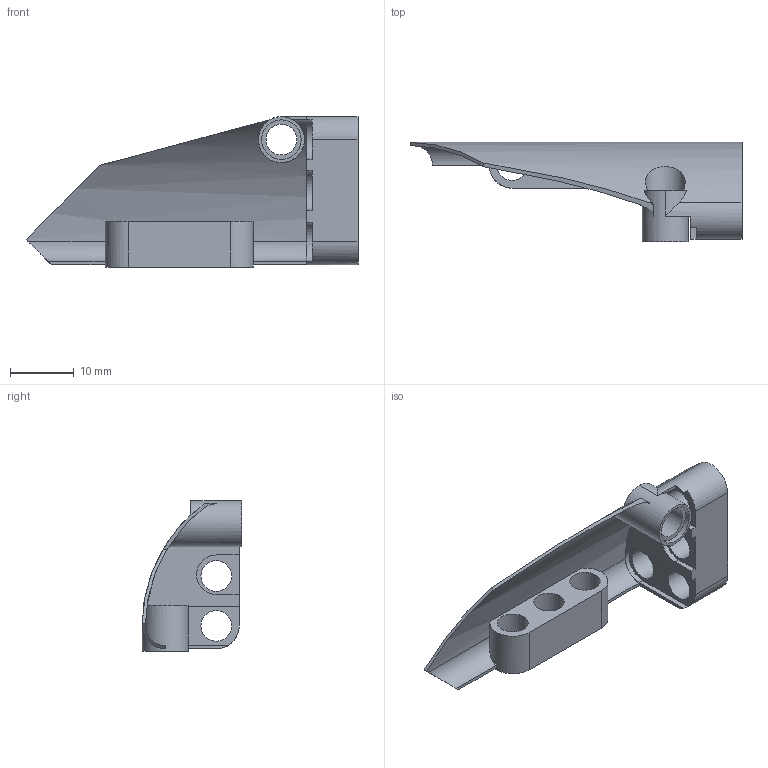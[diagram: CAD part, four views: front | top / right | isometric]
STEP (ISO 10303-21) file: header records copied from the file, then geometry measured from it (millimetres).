
FILE_DESCRIPTION(/* description */ ('Unknown'),/* implementation_level */ '2;1');
FILE_NAME(/* name */ 'Ye_6005195_AVV',/* time_stamp */ '2025-07-22T00:10:36+02:00',/* author */ ('Unknown'),/* organization */ ('Unknown'),/* preprocessor_version */ 'ST-DEVELOPER v19.4',/* originating_system */ 'Solid Edge',/* authorisation */ 'Unknown');
FILE_SCHEMA (('AUTOMOTIVE_DESIGN {1 0 10303 214 3 1 1}'));
Length unit declared in the file: millimetre
Products named in the file (1): Ye_6005195_AVV
Bounding box: 52 x 15.6 x 23.6 mm (x, y, z)
Volume: 2214.1 mm3; surface area: 4594.8 mm2
Topology: 1 solids, 1 shells, 121 faces, 310 edges, 205 vertices
Faces by surface type: cylinder 67, plane 54
Full cylindrical faces by diameter (mm): 4.8 x8, 6.2 x9, 7.2 x1
Entity records: 3686 total; most frequent: CARTESIAN_POINT 665, DIRECTION 658, ORIENTED_EDGE 576, EDGE_CURVE 288, AXIS2_PLACEMENT_3D 259, VERTEX_POINT 202, EDGE_LOOP 168, FACE_BOUND 168
